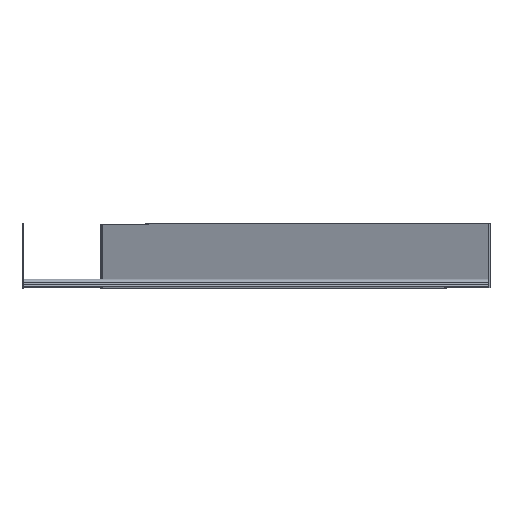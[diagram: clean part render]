
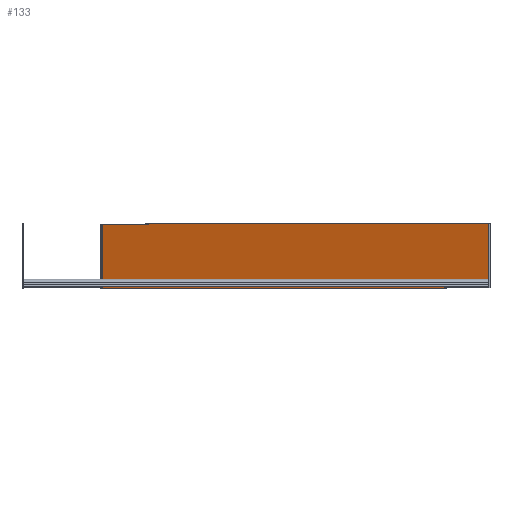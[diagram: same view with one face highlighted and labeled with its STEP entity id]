
A CAD part, top view. The second image highlights one B-rep face of the part: STEP entity #133.
In plain terms, the highlighted planar face has unit normal (-0.35, 0, 0.937).
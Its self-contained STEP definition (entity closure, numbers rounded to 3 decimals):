
#104 = EDGE_CURVE ( 'NONE', #4341, #2934, #4092, .T. ) ;
#133 = ADVANCED_FACE ( 'NONE', ( #11212 ), #4267, .T. ) ;
#752 = DIRECTION ( 'NONE',  ( -0.35, 0., 0.937 ) ) ;
#806 = ORIENTED_EDGE ( 'NONE', *, *, #8089, .F. ) ;
#817 = LINE ( 'NONE', #3735, #10483 ) ;
#1568 = CARTESIAN_POINT ( 'NONE',  ( 825., 124., 0. ) ) ;
#1625 = CARTESIAN_POINT ( 'NONE',  ( 825., 0., 0. ) ) ;
#1639 = DIRECTION ( 'NONE',  ( -0.937, 0., -0.35 ) ) ;
#1893 = CARTESIAN_POINT ( 'NONE',  ( 77.276, 124., -279.15 ) ) ;
#2117 = VECTOR ( 'NONE', #1639, 1000. ) ;
#2193 = ORIENTED_EDGE ( 'NONE', *, *, #104, .F. ) ;
#2700 = LINE ( 'NONE', #9641, #2117 ) ;
#2934 = VERTEX_POINT ( 'NONE', #5266 ) ;
#3280 = DIRECTION ( 'NONE',  ( 0., 1., 0. ) ) ;
#3415 = EDGE_LOOP ( 'NONE', ( #806, #2193, #8599, #9521 ) ) ;
#3568 = CARTESIAN_POINT ( 'NONE',  ( 824.025, 124., -0.364 ) ) ;
#3735 = CARTESIAN_POINT ( 'NONE',  ( 824.025, 0., -0.364 ) ) ;
#3741 = CARTESIAN_POINT ( 'NONE',  ( 824.025, 0., -0.364 ) ) ;
#4092 = LINE ( 'NONE', #1625, #6142 ) ;
#4267 = PLANE ( 'NONE',  #8740 ) ;
#4341 = VERTEX_POINT ( 'NONE', #3741 ) ;
#5095 = LINE ( 'NONE', #10628, #9545 ) ;
#5206 = DIRECTION ( 'NONE',  ( -0.937, 0., -0.35 ) ) ;
#5266 = CARTESIAN_POINT ( 'NONE',  ( 77.276, 0., -279.15 ) ) ;
#5516 = EDGE_CURVE ( 'NONE', #9775, #9000, #2700, .T. ) ;
#6142 = VECTOR ( 'NONE', #5206, 1000. ) ;
#6256 = DIRECTION ( 'NONE',  ( 0., 1., 0. ) ) ;
#8089 = EDGE_CURVE ( 'NONE', #2934, #9000, #5095, .T. ) ;
#8164 = EDGE_CURVE ( 'NONE', #4341, #9775, #817, .T. ) ;
#8518 = DIRECTION ( 'NONE',  ( 0.937, 0., 0.35 ) ) ;
#8599 = ORIENTED_EDGE ( 'NONE', *, *, #8164, .T. ) ;
#8740 = AXIS2_PLACEMENT_3D ( 'NONE', #1568, #752, #8518 ) ;
#9000 = VERTEX_POINT ( 'NONE', #1893 ) ;
#9521 = ORIENTED_EDGE ( 'NONE', *, *, #5516, .T. ) ;
#9545 = VECTOR ( 'NONE', #3280, 1000. ) ;
#9641 = CARTESIAN_POINT ( 'NONE',  ( 825., 124., 0. ) ) ;
#9775 = VERTEX_POINT ( 'NONE', #3568 ) ;
#10483 = VECTOR ( 'NONE', #6256, 1000. ) ;
#10628 = CARTESIAN_POINT ( 'NONE',  ( 77.276, 0., -279.15 ) ) ;
#11212 = FACE_OUTER_BOUND ( 'NONE', #3415, .T. ) ;
